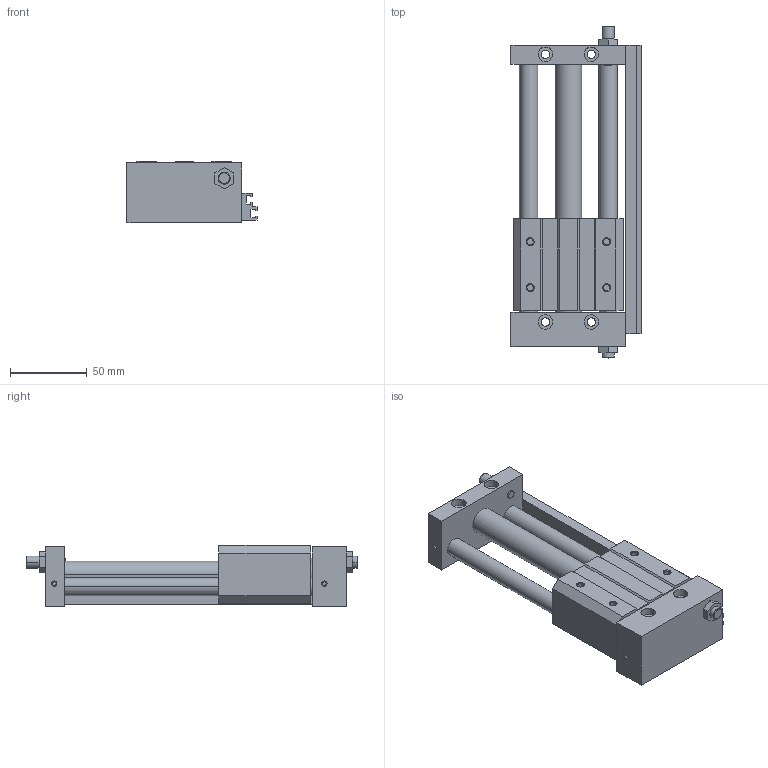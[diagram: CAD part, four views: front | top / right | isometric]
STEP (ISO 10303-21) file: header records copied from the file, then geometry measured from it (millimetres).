
FILE_DESCRIPTION((''),'2;1');
FILE_NAME('C:\Documents and Settings\Administrator\桌面\GYS\GYS15\GYSR15X100.stp','2012-03-05T10:52:35',('Administrator'),(''),'Autodesk Inventor 8','Autodesk Inventor 8','');
FILE_SCHEMA(('AUTOMOTIVE_DESIGN { 1 0 10303 214 1 1 1 1 }'));
Length unit declared in the file: millimetre
Products named in the file (3): GYSR15X100; GYS15X100; GYS15160X100
Assembly tree (2 placements, depth 2):
  GYSR15X100
    GYS15X100
    GYS15160X100
Bounding box: 85 x 217 x 40 mm (x, y, z)
Volume: 322544.5 mm3; surface area: 68558.5 mm2
Topology: 2 solids, 2 shells, 201 faces, 494 edges, 320 vertices
Faces by surface type: plane 107, cylinder 60, cone 28, bspline 6
Entity records: 6100 total; most frequent: CARTESIAN_POINT 1094, DIRECTION 1058, ORIENTED_EDGE 988, EDGE_CURVE 494, AXIS2_PLACEMENT_3D 364, VECTOR 330, LINE 330, VERTEX_POINT 320
